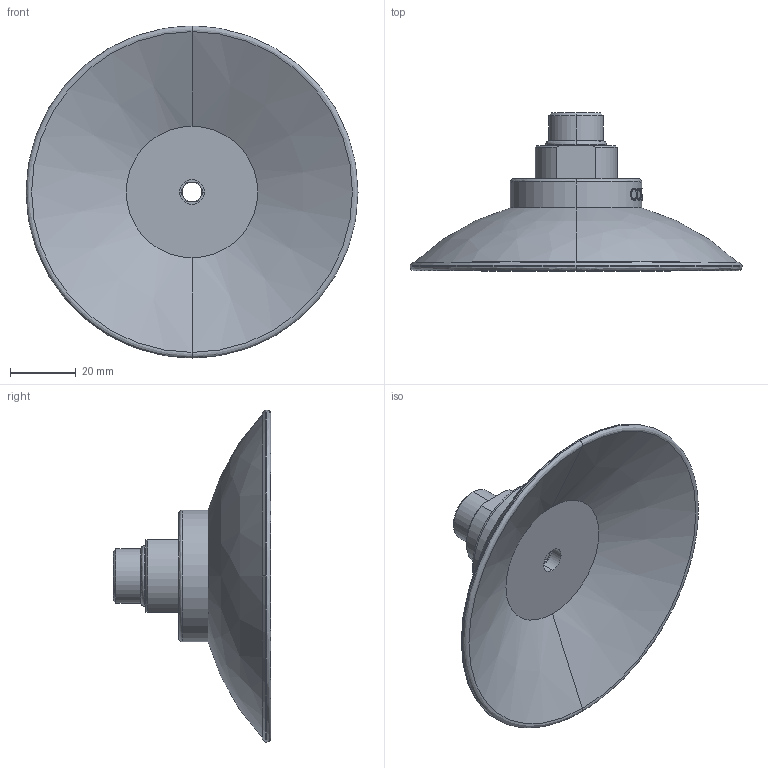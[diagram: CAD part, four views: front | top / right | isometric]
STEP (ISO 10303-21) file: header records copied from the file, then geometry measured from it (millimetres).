
FILE_DESCRIPTION (( 'STEP AP214' ), '1' );
FILE_NAME ('SAF-100-G3-8AG.STEP', '2023-03-07T01:28:15', ( 'Windows User' ), ( 'P R C' ), 'SwSTEP 2.0', 'SolidWorks 2019', '' );
FILE_SCHEMA (( 'AUTOMOTIVE_DESIGN' ));
Length unit declared in the file: millimetre
Products named in the file (1): SAF-100-G3-8AG
Bounding box: 101 x 48 x 101 mm (x, y, z)
Volume: 62181 mm3; surface area: 23376.4 mm2
Topology: 3 solids, 3 shells, 131 faces, 314 edges, 202 vertices
Faces by surface type: bspline 43, plane 40, cylinder 32, cone 16
Entity records: 15159 total; most frequent: CARTESIAN_POINT 10777, ORIENTED_EDGE 628, DIRECTION 540, EDGE_CURVE 314, AXIS2_PLACEMENT_3D 205, VERTEX_POINT 202, EDGE_LOOP 150, UNCERTAINTY_MEASURE_WITH_UNIT 136
